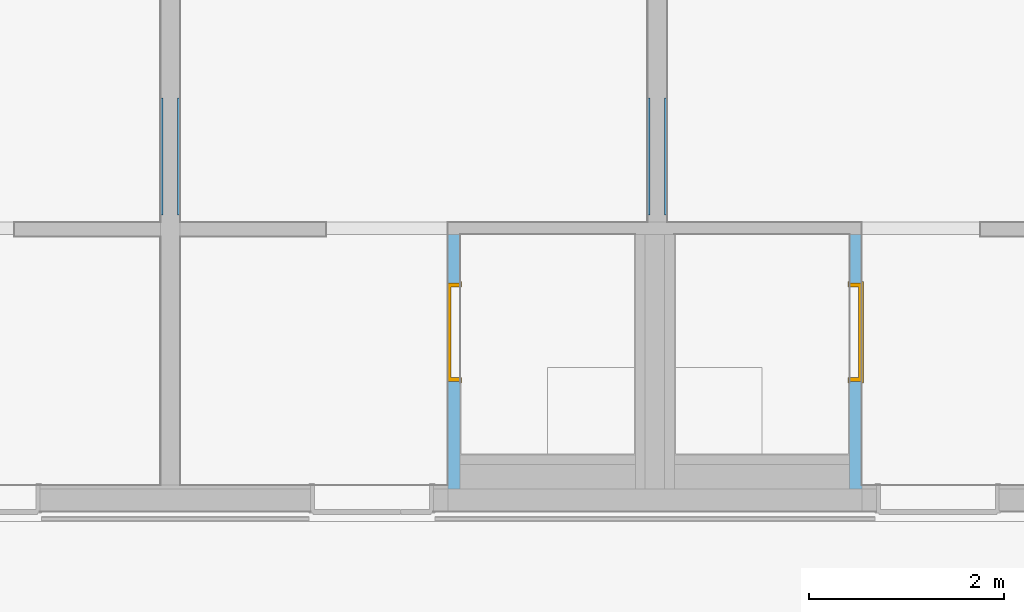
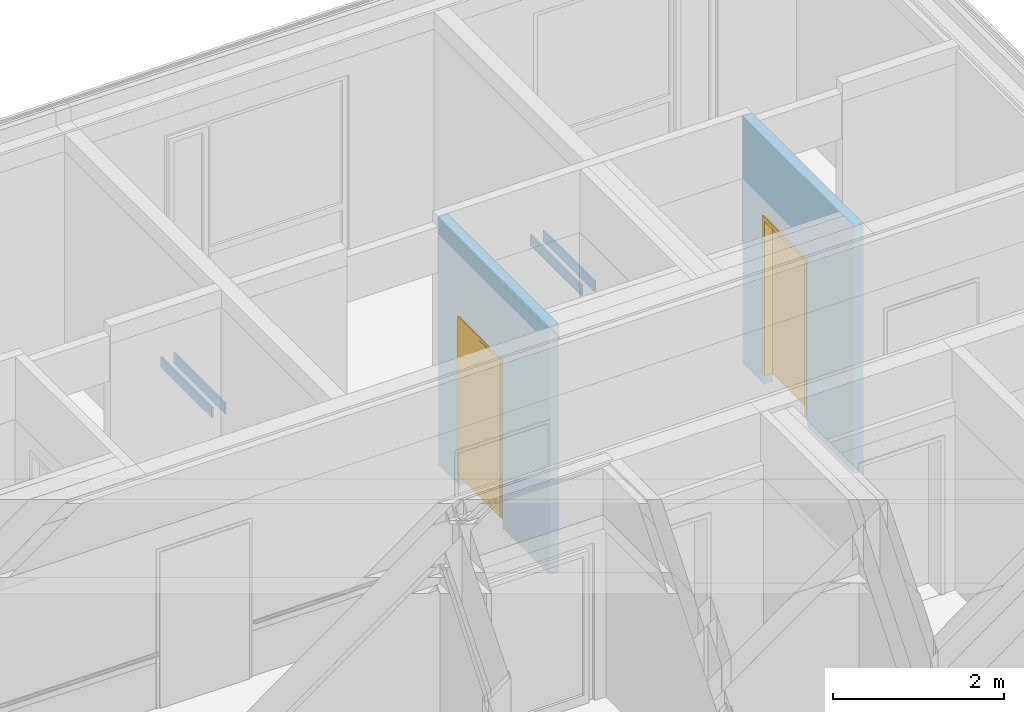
# One storey, part 145 of 222: 4 walls, 2 doors, 2 openings, plus 2 elements that do not belong to this part.
"""IFC4 building model written with IfcOpenShell, lengths in metres."""

from ifc_helpers import new_model, entity, si_unit, converted_unit, derived_unit, frame, frame_2d, origin, origin_with_axes, place, context, subcontext, project, spatial, polyline, rectangle, outline, extrude, faceted_brep, source, transform, mapped, material, type_object, element, fill, save


model = new_model("IFC4")

# Units and contexts
model_context = context("Model", 3, precision=1e-05, world=origin())
body_context = subcontext(model_context, "Body", "Model", "MODEL_VIEW")
ifc_project = project(units=[si_unit("LENGTHUNIT", "METRE"), si_unit("AREAUNIT", "SQUARE_METRE"), si_unit("VOLUMEUNIT", "CUBIC_METRE"), si_unit("MASSUNIT", "GRAM", prefix="KILO"), converted_unit("PLANEANGLEUNIT", "DEGREE", entity("IfcPlaneAngleMeasure", 0.0174532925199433), si_unit("PLANEANGLEUNIT", "RADIAN"), dimensions=[0, 0, 0, 0, 0, 0, 0]), derived_unit("THERMALTRANSMITTANCEUNIT", [(si_unit("POWERUNIT", "WATT"), 1), (si_unit("THERMODYNAMICTEMPERATUREUNIT", "KELVIN"), -1), (si_unit("LENGTHUNIT", "METRE"), -2)]), derived_unit("VOLUMETRICFLOWRATEUNIT", [(si_unit("LENGTHUNIT", "METRE"), 3), (converted_unit("TIMEUNIT", "hour", entity("IfcTimeMeasure", 3600.0), si_unit("TIMEUNIT", "SECOND"), dimensions=[0, 0, 1, 0, 0, 0, 0]), -1), (si_unit("LENGTHUNIT", "METRE"), -1)])], contexts=[model_context])

# Site, building, storey
site_placement = place(None, origin())
site = spatial("IfcSite", under=ifc_project, at=site_placement, Name="Psychiatrie Neubau Wunstorf", CompositionType="ELEMENT")
building_placement = place(site_placement, origin())
building = spatial("IfcBuilding", under=site, at=building_placement, Name="Neubau H2 Stationsgebäude", CompositionType="ELEMENT")
storey_placement = place(building_placement, frame((0.0, 0.0, 3.6)))
storey = spatial("IfcBuildingStorey", under=building, at=storey_placement, Name="H2 Ebene +1", CompositionType="ELEMENT", Elevation=3.6)

# Wall, opening, door
ifc_material_1 = material(Name="WI-LB")
wall_1_placement = place(storey_placement, frame((98.85, 27.9645, 0.0), z_axis=(0.0, 0.0, 1.0), x_axis=(0.0, -1.0, 0.0)))
wall_1 = element("IfcWall", 1, at=wall_1_placement, inside=storey, material=ifc_material_1, context=body_context, shape_type="SweptSolid", body=[
    extrude(rectangle(XDim=2.61500000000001, YDim=0.125, at=frame_2d((1.30750000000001, 0.0625), x_axis=(1.0, 0.0))), origin_with_axes(), (0.0, 0.0, 1.0), 3.55),
])
opening_1_placement = place(wall_1_placement, frame((1.51000000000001, 0.125, 0.0), z_axis=(0.0, -1.0, 0.0), x_axis=(0.0, 0.0, 1.0)))
opening_1 = element("IfcOpeningElement", 2, at=opening_1_placement, cuts=wall_1, Name="Türöffnung", ObjectType="Opening", context=body_context, shape_type="SweptSolid", body=[
    extrude(outline(polyline([(2.41, 1.01), (2.41, 0.0), (0.0, 0.0), (0.0, 1.01), (2.41, 1.01)])), origin_with_axes(), (0.0, 0.0, 1.0), 0.125),
])
ifc_material_2 = material(Name="TI-1F-UZ-D-N")
door_type_1 = type_object("IfcDoorType", Name="SMT", OperationType="SINGLE_SWING_RIGHT", ParameterTakesPrecedence=False, PredefinedType="DOOR")
shared_shape_1 = source(origin_with_axes(), body_context, "Body", "Brep", [
    faceted_brep([(-0.0400000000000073, 0.0125000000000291, 0.0), (0.0, 0.0125000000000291, 0.0), (0.0, 0.112500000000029, 0.0), (-0.0400000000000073, 0.112500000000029, 0.0), (-0.0400000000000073, 0.112500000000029, 3.55), (0.0, 0.112500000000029, 3.55), (0.0, 0.0125000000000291, 3.55), (-0.0400000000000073, 0.0125000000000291, 3.55)], [[[0, 1, 2, 3]], [[4, 5, 6, 7]], [[3, 4, 7, 0]], [[2, 5, 4, 3]], [[1, 6, 5, 2]], [[0, 7, 6, 1]]], orient=[[False], [False], [False], [False], [False], [False]]),
    faceted_brep([(1.00999999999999, 0.0125000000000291, 0.0), (1.04999999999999, 0.0125000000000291, 0.0), (1.04999999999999, 0.112500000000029, 0.0), (1.00999999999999, 0.112500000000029, 0.0), (1.00999999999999, 0.112500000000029, 3.55), (1.04999999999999, 0.112500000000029, 3.55), (1.04999999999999, 0.0125000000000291, 3.55), (1.00999999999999, 0.0125000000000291, 3.55)], [[[0, 1, 2, 3]], [[4, 5, 6, 7]], [[3, 4, 7, 0]], [[2, 5, 4, 3]], [[1, 6, 5, 2]], [[0, 7, 6, 1]]], orient=[[False], [False], [False], [False], [False], [False]]),
    faceted_brep([(0.0, 0.0125000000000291, 2.41), (1.00999999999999, 0.0125000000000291, 2.41), (1.00999999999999, 0.112500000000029, 2.41), (0.0, 0.112500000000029, 2.41), (0.0, 0.112500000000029, 2.45), (1.00999999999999, 0.112500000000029, 2.45), (1.00999999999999, 0.0125000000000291, 2.45), (0.0, 0.0125000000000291, 2.45)], [[[0, 1, 2, 3]], [[4, 5, 6, 7]], [[3, 4, 7, 0]], [[2, 5, 4, 3]], [[1, 6, 5, 2]], [[0, 7, 6, 1]]], orient=[[False], [False], [False], [False], [False], [False]]),
])
shared_shape_2 = source(origin_with_axes(), body_context, "Body", "Brep", [
    faceted_brep([(0.0, -0.0149999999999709, 2.41), (0.0399999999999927, -0.0149999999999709, 2.41), (0.0399999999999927, -0.0149999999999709, 0.15), (0.0, -0.0149999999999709, 0.15), (0.0, 0.140000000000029, 0.15), (0.0399999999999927, 0.140000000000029, 0.15), (0.0399999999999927, 0.140000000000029, 2.41), (0.0, 0.140000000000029, 2.41)], [[[0, 1, 2, 3]], [[4, 5, 6, 7]], [[3, 4, 7, 0]], [[2, 5, 4, 3]], [[1, 6, 5, 2]], [[0, 7, 6, 1]]], orient=[[False], [False], [False], [False], [False], [False]]),
    faceted_brep([(0.0, -0.0149999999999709, 2.425), (0.0, -0.0149999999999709, 0.15), (-0.0150000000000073, -0.0149999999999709, 0.15), (-0.0150000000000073, -0.0149999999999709, 2.425), (0.0, 0.0, 0.15), (0.0, 0.0, 2.425), (-0.0150000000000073, 0.0, 2.425), (-0.0150000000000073, 0.0, 0.15)], [[[0, 1, 2, 3]], [[4, 5, 6, 7]], [[1, 0, 5, 4]], [[2, 1, 4, 7]], [[3, 2, 7, 6]], [[0, 3, 6, 5]]], orient=[[False], [False], [False], [False], [False], [False]]),
    faceted_brep([(0.0, 0.125000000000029, 2.425), (0.0, 0.125000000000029, 0.15), (-0.0150000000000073, 0.125000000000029, 0.15), (-0.0150000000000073, 0.125000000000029, 2.425), (0.0, 0.140000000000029, 0.15), (0.0, 0.140000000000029, 2.425), (-0.0150000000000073, 0.140000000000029, 2.425), (-0.0150000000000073, 0.140000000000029, 0.15)], [[[0, 1, 2, 3]], [[4, 5, 6, 7]], [[1, 0, 5, 4]], [[2, 1, 4, 7]], [[3, 2, 7, 6]], [[0, 3, 6, 5]]], orient=[[False], [False], [False], [False], [False], [False]]),
    faceted_brep([(0.969999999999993, -0.0149999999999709, 2.41), (1.00999999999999, -0.0149999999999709, 2.41), (1.00999999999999, -0.0149999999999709, 0.15), (0.969999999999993, -0.0149999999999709, 0.15), (0.969999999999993, 0.140000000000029, 0.15), (1.00999999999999, 0.140000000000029, 0.15), (1.00999999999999, 0.140000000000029, 2.41), (0.969999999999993, 0.140000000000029, 2.41)], [[[0, 1, 2, 3]], [[4, 5, 6, 7]], [[3, 4, 7, 0]], [[2, 5, 4, 3]], [[1, 6, 5, 2]], [[0, 7, 6, 1]]], orient=[[False], [False], [False], [False], [False], [False]]),
    faceted_brep([(1.00999999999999, -0.0149999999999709, 2.425), (1.02499999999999, -0.0149999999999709, 2.425), (1.02499999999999, -0.0149999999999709, 0.15), (1.00999999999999, -0.0149999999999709, 0.15), (1.00999999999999, 0.0, 0.15), (1.02499999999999, 0.0, 0.15), (1.02499999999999, 0.0, 2.425), (1.00999999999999, 0.0, 2.425)], [[[0, 1, 2, 3]], [[4, 5, 6, 7]], [[3, 4, 7, 0]], [[2, 5, 4, 3]], [[1, 6, 5, 2]], [[0, 7, 6, 1]]], orient=[[False], [False], [False], [False], [False], [False]]),
    faceted_brep([(1.00999999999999, 0.125000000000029, 2.425), (1.02499999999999, 0.125000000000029, 2.425), (1.02499999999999, 0.125000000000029, 0.15), (1.00999999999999, 0.125000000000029, 0.15), (1.00999999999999, 0.140000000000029, 0.15), (1.02499999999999, 0.140000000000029, 0.15), (1.02499999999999, 0.140000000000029, 2.425), (1.00999999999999, 0.140000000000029, 2.425)], [[[0, 1, 2, 3]], [[4, 5, 6, 7]], [[3, 4, 7, 0]], [[2, 5, 4, 3]], [[1, 6, 5, 2]], [[0, 7, 6, 1]]], orient=[[False], [False], [False], [False], [False], [False]]),
    faceted_brep([(0.0399999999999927, -0.0149999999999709, 2.41), (0.969999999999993, -0.0149999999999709, 2.41), (0.969999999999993, -0.0149999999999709, 2.37), (0.0399999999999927, -0.0149999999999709, 2.37), (0.0399999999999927, 0.140000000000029, 2.37), (0.969999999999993, 0.140000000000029, 2.37), (0.969999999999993, 0.140000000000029, 2.41), (0.0399999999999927, 0.140000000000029, 2.41)], [[[0, 1, 2, 3]], [[4, 5, 6, 7]], [[3, 4, 7, 0]], [[2, 5, 4, 3]], [[1, 6, 5, 2]], [[0, 7, 6, 1]]], orient=[[False], [False], [False], [False], [False], [False]]),
    faceted_brep([(0.0, -0.0149999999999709, 2.425), (1.00999999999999, -0.0149999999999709, 2.425), (1.00999999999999, -0.0149999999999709, 2.41), (0.0, -0.0149999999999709, 2.41), (0.0, 0.0, 2.41), (1.00999999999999, 0.0, 2.41), (1.00999999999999, 0.0, 2.425), (0.0, 0.0, 2.425)], [[[0, 1, 2, 3]], [[4, 5, 6, 7]], [[3, 4, 7, 0]], [[2, 5, 4, 3]], [[1, 6, 5, 2]], [[0, 7, 6, 1]]], orient=[[False], [False], [False], [False], [False], [False]]),
    faceted_brep([(0.0, 0.125000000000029, 2.425), (1.00999999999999, 0.125000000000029, 2.425), (1.00999999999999, 0.125000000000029, 2.41), (0.0, 0.125000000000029, 2.41), (0.0, 0.140000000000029, 2.41), (1.00999999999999, 0.140000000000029, 2.41), (1.00999999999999, 0.140000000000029, 2.425), (0.0, 0.140000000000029, 2.425)], [[[0, 1, 2, 3]], [[4, 5, 6, 7]], [[3, 4, 7, 0]], [[2, 5, 4, 3]], [[1, 6, 5, 2]], [[0, 7, 6, 1]]], orient=[[False], [False], [False], [False], [False], [False]]),
    faceted_brep([(0.0249999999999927, 0.0910000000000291, 2.385), (0.984999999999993, 0.0910000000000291, 2.385), (0.984999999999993, 0.0910000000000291, 0.15), (0.0249999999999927, 0.0910000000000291, 0.15), (0.0249999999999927, 0.141000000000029, 0.15), (0.984999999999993, 0.141000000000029, 0.15), (0.984999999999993, 0.141000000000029, 2.385), (0.0249999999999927, 0.141000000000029, 2.385)], [[[0, 1, 2, 3]], [[4, 5, 6, 7]], [[3, 4, 7, 0]], [[2, 5, 4, 3]], [[1, 6, 5, 2]], [[0, 7, 6, 1]]], orient=[[False], [False], [False], [False], [False], [False]]),
])
door_1_placement = place(opening_1_placement, frame((0.0, 0.0, 0.0), z_axis=(1.0, 0.0, 0.0), x_axis=(0.0, 1.0, 0.0)))
door_1 = element("IfcDoor", 3, at=door_1_placement, inside=storey, type_object=door_type_1, material=ifc_material_2, Name="SMT", OverallHeight=2.41, OverallWidth=1.01, context=body_context, shape_type="MappedRepresentation", body=[
    mapped(shared_shape_1, transform((0.0, 0.0, 0.0), x_axis=(1.0, 0.0, 0.0), y_axis=(0.0, 1.0, 0.0), z_axis=(0.0, 0.0, 1.0), scale=1.0)),
    mapped(shared_shape_2, transform((0.0, 0.0, 0.0), x_axis=(1.0, 0.0, 0.0), y_axis=(0.0, 1.0, 0.0), z_axis=(0.0, 0.0, 1.0), scale=1.0)),
])
fill(opening_1, door_1)

ifc_material_3 = material(Name="WI-LB")
wall_2_placement = place(storey_placement, frame((102.975, 27.9645, 0.0), z_axis=(0.0, 0.0, 1.0), x_axis=(0.0, -1.0, 0.0)))
wall_2 = element("IfcWall", 4, at=wall_2_placement, inside=storey, material=ifc_material_3, context=body_context, shape_type="SweptSolid", body=[
    extrude(rectangle(XDim=2.61500000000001, YDim=0.125, at=frame_2d((1.3075, 0.0625), x_axis=(1.0, 0.0))), origin_with_axes(), (0.0, 0.0, 1.0), 3.55),
])
opening_2_placement = place(wall_2_placement, frame((0.5, 0.0, 0.0), z_axis=(0.0, 1.0, 0.0), x_axis=(0.0, 0.0, 1.0)))
opening_2 = element("IfcOpeningElement", 5, at=opening_2_placement, cuts=wall_2, Name="Türöffnung", ObjectType="Opening", context=body_context, shape_type="SweptSolid", body=[
    extrude(outline(polyline([(2.41, 1.01), (2.41, 0.0), (0.0, 0.0), (0.0, 1.01), (2.41, 1.01)])), origin_with_axes(), (0.0, 0.0, 1.0), 0.125),
])
ifc_material_4 = material(Name="TI-1F-UZ-D-N")
door_type_2 = type_object("IfcDoorType", Name="SMT", OperationType="SINGLE_SWING_RIGHT", ParameterTakesPrecedence=False, PredefinedType="DOOR")
shared_shape_3 = source(origin_with_axes(), body_context, "Body", "Brep", [
    faceted_brep([(1.05000000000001, 0.0124999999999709, 0.0), (1.05000000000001, 0.112499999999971, 0.0), (1.01000000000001, 0.112499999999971, 0.0), (1.01000000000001, 0.0124999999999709, 0.0), (1.05000000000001, 0.112499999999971, 3.55), (1.05000000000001, 0.0124999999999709, 3.55), (1.01000000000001, 0.0124999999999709, 3.55), (1.01000000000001, 0.112499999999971, 3.55)], [[[0, 1, 2, 3]], [[4, 5, 6, 7]], [[1, 0, 5, 4]], [[2, 1, 4, 7]], [[3, 2, 7, 6]], [[0, 3, 6, 5]]], orient=[[False], [False], [False], [False], [False], [False]]),
    faceted_brep([(0.0, 0.0124999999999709, 0.0), (0.0, 0.112499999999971, 0.0), (-0.0399999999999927, 0.112499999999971, 0.0), (-0.0399999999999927, 0.0124999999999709, 0.0), (0.0, 0.112499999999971, 3.55), (0.0, 0.0124999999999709, 3.55), (-0.0399999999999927, 0.0124999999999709, 3.55), (-0.0399999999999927, 0.112499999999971, 3.55)], [[[0, 1, 2, 3]], [[4, 5, 6, 7]], [[1, 0, 5, 4]], [[2, 1, 4, 7]], [[3, 2, 7, 6]], [[0, 3, 6, 5]]], orient=[[False], [False], [False], [False], [False], [False]]),
    faceted_brep([(1.01000000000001, 0.0124999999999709, 2.41), (1.01000000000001, 0.112499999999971, 2.41), (0.0, 0.112499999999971, 2.41), (0.0, 0.0124999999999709, 2.41), (1.01000000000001, 0.112499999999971, 2.45), (1.01000000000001, 0.0124999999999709, 2.45), (0.0, 0.0124999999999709, 2.45), (0.0, 0.112499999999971, 2.45)], [[[0, 1, 2, 3]], [[4, 5, 6, 7]], [[1, 0, 5, 4]], [[2, 1, 4, 7]], [[3, 2, 7, 6]], [[0, 3, 6, 5]]], orient=[[False], [False], [False], [False], [False], [False]]),
])
shared_shape_4 = source(origin_with_axes(), body_context, "Body", "Brep", [
    faceted_brep([(1.01000000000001, -0.0150000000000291, 2.41), (1.01000000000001, -0.0150000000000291, 0.15), (0.970000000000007, -0.0150000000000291, 0.15), (0.970000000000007, -0.0150000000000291, 2.41), (1.01000000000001, 0.139999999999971, 0.15), (1.01000000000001, 0.139999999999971, 2.41), (0.970000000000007, 0.139999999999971, 2.41), (0.970000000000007, 0.139999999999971, 0.15)], [[[0, 1, 2, 3]], [[4, 5, 6, 7]], [[1, 0, 5, 4]], [[2, 1, 4, 7]], [[3, 2, 7, 6]], [[0, 3, 6, 5]]], orient=[[False], [False], [False], [False], [False], [False]]),
    faceted_brep([(1.01000000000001, -0.0150000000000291, 2.425), (1.02500000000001, -0.0150000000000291, 2.425), (1.02500000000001, -0.0150000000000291, 0.15), (1.01000000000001, -0.0150000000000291, 0.15), (1.01000000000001, 0.0, 0.15), (1.02500000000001, 0.0, 0.15), (1.02500000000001, 0.0, 2.425), (1.01000000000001, 0.0, 2.425)], [[[0, 1, 2, 3]], [[4, 5, 6, 7]], [[3, 4, 7, 0]], [[2, 5, 4, 3]], [[1, 6, 5, 2]], [[0, 7, 6, 1]]], orient=[[False], [False], [False], [False], [False], [False]]),
    faceted_brep([(1.01000000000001, 0.124999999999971, 2.425), (1.02500000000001, 0.124999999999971, 2.425), (1.02500000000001, 0.124999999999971, 0.15), (1.01000000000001, 0.124999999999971, 0.15), (1.01000000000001, 0.139999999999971, 0.15), (1.02500000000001, 0.139999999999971, 0.15), (1.02500000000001, 0.139999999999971, 2.425), (1.01000000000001, 0.139999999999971, 2.425)], [[[0, 1, 2, 3]], [[4, 5, 6, 7]], [[3, 4, 7, 0]], [[2, 5, 4, 3]], [[1, 6, 5, 2]], [[0, 7, 6, 1]]], orient=[[False], [False], [False], [False], [False], [False]]),
    faceted_brep([(0.0400000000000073, -0.0150000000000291, 2.41), (0.0400000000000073, -0.0150000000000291, 0.15), (0.0, -0.0150000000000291, 0.15), (0.0, -0.0150000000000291, 2.41), (0.0400000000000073, 0.139999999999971, 0.15), (0.0400000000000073, 0.139999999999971, 2.41), (0.0, 0.139999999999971, 2.41), (0.0, 0.139999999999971, 0.15)], [[[0, 1, 2, 3]], [[4, 5, 6, 7]], [[1, 0, 5, 4]], [[2, 1, 4, 7]], [[3, 2, 7, 6]], [[0, 3, 6, 5]]], orient=[[False], [False], [False], [False], [False], [False]]),
    faceted_brep([(0.0, -0.0150000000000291, 2.425), (0.0, -0.0150000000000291, 0.15), (-0.0149999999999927, -0.0150000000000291, 0.15), (-0.0149999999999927, -0.0150000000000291, 2.425), (0.0, 0.0, 0.15), (0.0, 0.0, 2.425), (-0.0149999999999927, 0.0, 2.425), (-0.0149999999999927, 0.0, 0.15)], [[[0, 1, 2, 3]], [[4, 5, 6, 7]], [[1, 0, 5, 4]], [[2, 1, 4, 7]], [[3, 2, 7, 6]], [[0, 3, 6, 5]]], orient=[[False], [False], [False], [False], [False], [False]]),
    faceted_brep([(0.0, 0.124999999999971, 2.425), (0.0, 0.124999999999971, 0.15), (-0.0149999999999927, 0.124999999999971, 0.15), (-0.0149999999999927, 0.124999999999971, 2.425), (0.0, 0.139999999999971, 0.15), (0.0, 0.139999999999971, 2.425), (-0.0149999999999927, 0.139999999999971, 2.425), (-0.0149999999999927, 0.139999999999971, 0.15)], [[[0, 1, 2, 3]], [[4, 5, 6, 7]], [[1, 0, 5, 4]], [[2, 1, 4, 7]], [[3, 2, 7, 6]], [[0, 3, 6, 5]]], orient=[[False], [False], [False], [False], [False], [False]]),
    faceted_brep([(0.970000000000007, -0.0150000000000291, 2.41), (0.970000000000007, -0.0150000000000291, 2.37), (0.0400000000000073, -0.0150000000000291, 2.37), (0.0400000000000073, -0.0150000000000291, 2.41), (0.970000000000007, 0.139999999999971, 2.37), (0.970000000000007, 0.139999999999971, 2.41), (0.0400000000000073, 0.139999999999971, 2.41), (0.0400000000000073, 0.139999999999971, 2.37)], [[[0, 1, 2, 3]], [[4, 5, 6, 7]], [[1, 0, 5, 4]], [[2, 1, 4, 7]], [[3, 2, 7, 6]], [[0, 3, 6, 5]]], orient=[[False], [False], [False], [False], [False], [False]]),
    faceted_brep([(1.01000000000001, -0.0150000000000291, 2.425), (1.01000000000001, -0.0150000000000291, 2.41), (0.0, -0.0150000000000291, 2.41), (0.0, -0.0150000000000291, 2.425), (1.01000000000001, 0.0, 2.41), (1.01000000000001, 0.0, 2.425), (0.0, 0.0, 2.425), (0.0, 0.0, 2.41)], [[[0, 1, 2, 3]], [[4, 5, 6, 7]], [[1, 0, 5, 4]], [[2, 1, 4, 7]], [[3, 2, 7, 6]], [[0, 3, 6, 5]]], orient=[[False], [False], [False], [False], [False], [False]]),
    faceted_brep([(1.01000000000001, 0.124999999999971, 2.425), (1.01000000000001, 0.124999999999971, 2.41), (0.0, 0.124999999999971, 2.41), (0.0, 0.124999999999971, 2.425), (1.01000000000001, 0.139999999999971, 2.41), (1.01000000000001, 0.139999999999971, 2.425), (0.0, 0.139999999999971, 2.425), (0.0, 0.139999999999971, 2.41)], [[[0, 1, 2, 3]], [[4, 5, 6, 7]], [[1, 0, 5, 4]], [[2, 1, 4, 7]], [[3, 2, 7, 6]], [[0, 3, 6, 5]]], orient=[[False], [False], [False], [False], [False], [False]]),
    faceted_brep([(0.985000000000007, 0.0909999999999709, 2.385), (0.985000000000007, 0.0909999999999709, 0.15), (0.0250000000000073, 0.0909999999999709, 0.15), (0.0250000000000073, 0.0909999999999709, 2.385), (0.985000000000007, 0.140999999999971, 0.15), (0.985000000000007, 0.140999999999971, 2.385), (0.0250000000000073, 0.140999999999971, 2.385), (0.0250000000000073, 0.140999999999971, 0.15)], [[[0, 1, 2, 3]], [[4, 5, 6, 7]], [[1, 0, 5, 4]], [[2, 1, 4, 7]], [[3, 2, 7, 6]], [[0, 3, 6, 5]]], orient=[[False], [False], [False], [False], [False], [False]]),
])
door_2_placement = place(opening_2_placement, frame((0.0, 0.0, 0.0), z_axis=(1.0, 0.0, 0.0), x_axis=(0.0, 1.0, 0.0)))
door_2 = element("IfcDoor", 6, at=door_2_placement, inside=storey, type_object=door_type_2, material=ifc_material_4, Name="SMT", OverallHeight=2.41, OverallWidth=1.01, context=body_context, shape_type="MappedRepresentation", body=[
    mapped(shared_shape_3, transform((0.0, 0.0, 0.0), x_axis=(1.0, 0.0, 0.0), y_axis=(0.0, 1.0, 0.0), z_axis=(0.0, 0.0, 1.0), scale=1.0)),
    mapped(shared_shape_4, transform((0.0, 0.0, 0.0), x_axis=(1.0, 0.0, 0.0), y_axis=(0.0, 1.0, 0.0), z_axis=(0.0, 0.0, 1.0), scale=1.0)),
])
fill(opening_2, door_2)

# Walls
for number, where, name in (
    (7, (96.075, 28.1628, 1.575), "WV 1.1"),
    (8, (101.075, 28.1628, 1.575), "WV 1.1"),
    (9, (100.9, 28.1628, 1.575), "WV 1.1"),
    (10, (95.9, 28.1628, 1.575), "WV 1.1"),
):
    element("IfcWall", number, at=place(storey_placement, frame(where)), inside=storey, Name=name, context=body_context, shape_type="Brep", body=[
        faceted_brep([(0.025, 1.2, 0.0), (0.0, 1.2, 0.0), (0.0, 0.0, 0.0), (0.025, 0.0, 0.0), (0.0, 1.2, 0.15), (0.025, 1.2, 0.15), (0.025, 0.0, 0.15), (0.0, 0.0, 0.15)], [[[0, 1, 2, 3]], [[4, 5, 6, 7]], [[1, 0, 5, 4]], [[2, 1, 4, 7]], [[3, 2, 7, 6]], [[0, 3, 6, 5]]], orient=[[False], [False], [False], [False], [False], [False]]),
    ])

save(model, "model.ifc")
